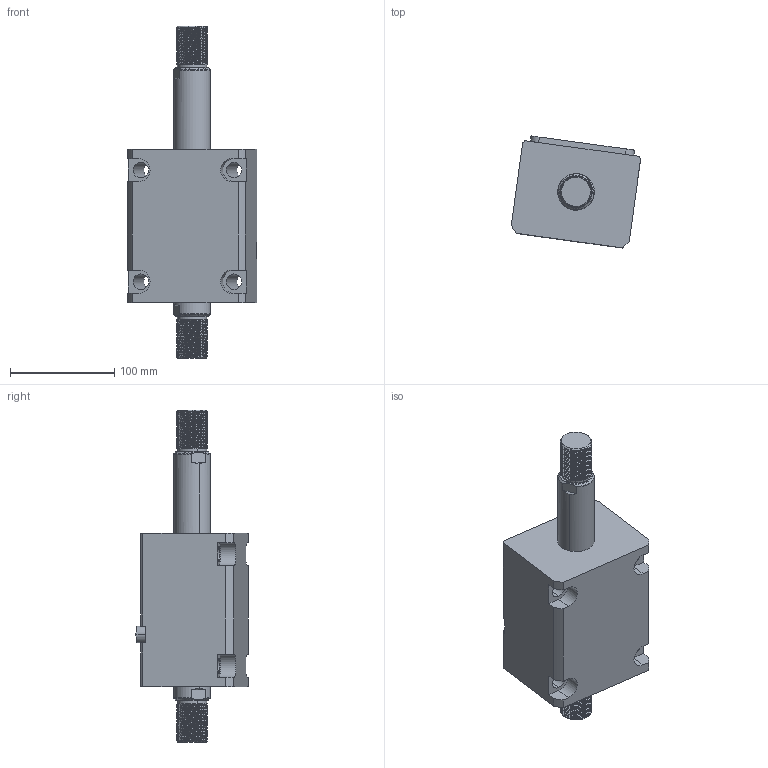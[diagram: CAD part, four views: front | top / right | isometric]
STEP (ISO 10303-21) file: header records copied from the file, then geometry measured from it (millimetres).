
FILE_DESCRIPTION (( 'STEP AP214' ), '1' );
FILE_NAME ('chtb-lwm63x65w_asm.STEP', '2018-05-22T01:43:12', ( 'Windows' ), ( 'Microsoft' ), 'SwSTEP 2.0', 'SolidWorks 2015', '' );
FILE_SCHEMA (( 'AUTOMOTIVE_DESIGN' ));
Length unit declared in the file: millimetre
Products named in the file (5): CHTB-SW63X65WHSG; CHTB-LWM63X65NBT; CHTB-LA63PJ; CHTB-63QG; chtb-lwm63x65w_asm
Assembly tree (4 placements, depth 2):
  chtb-lwm63x65w_asm
    CHTB-63QG
    CHTB-LA63PJ
    CHTB-LWM63X65NBT
    CHTB-SW63X65WHSG
Bounding box: 123.77 x 107.4 x 318 mm (x, y, z)
Volume: 1414339.1 mm3; surface area: 192468.3 mm2
Topology: 4 solids, 4 shells, 298 faces, 869 edges, 587 vertices
Faces by surface type: cylinder 203, plane 55, bspline 16, cone 12, torus 12
Entity records: 27660 total; most frequent: CARTESIAN_POINT 20506, ORIENTED_EDGE 1730, DIRECTION 1186, EDGE_CURVE 865, VERTEX_POINT 587, AXIS2_PLACEMENT_3D 440, EDGE_LOOP 326, VECTOR 306
